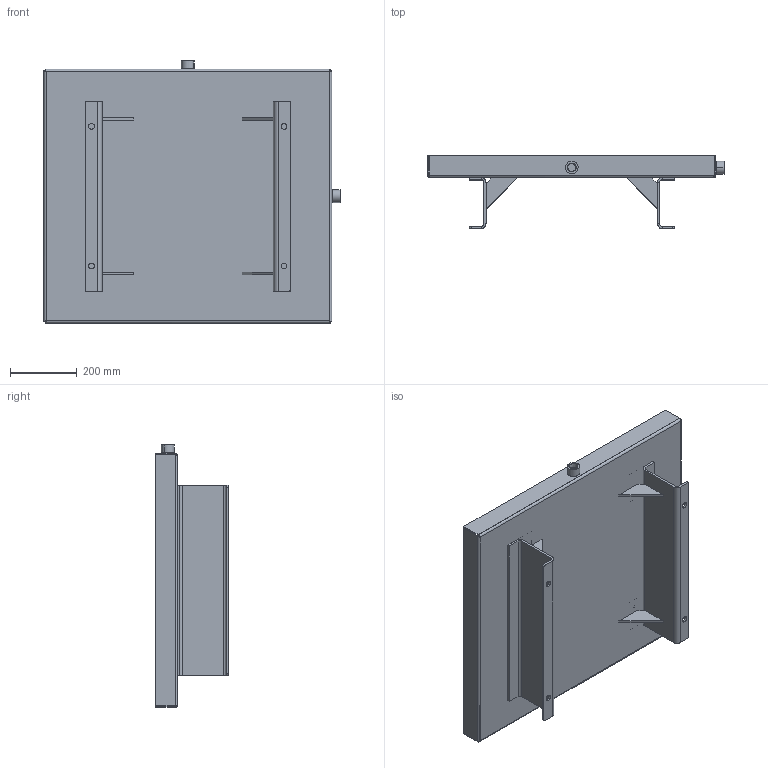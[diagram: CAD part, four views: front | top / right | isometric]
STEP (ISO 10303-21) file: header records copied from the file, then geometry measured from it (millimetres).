
FILE_DESCRIPTION (( 'STEP AP203' ), '1' );
FILE_NAME ('RJDPR010.STEP', '2015-01-07T19:38:09', ( '' ), ( '' ), 'SwSTEP 2.0', 'SolidWorks 2014', '' );
FILE_SCHEMA (( 'CONFIG_CONTROL_DESIGN' ));
Length unit declared in the file: inch
Products named in the file (1): RJDPR010
Bounding box: 889 x 219.07 x 787.4 mm (x, y, z)
Volume: 4932400.6 mm3; surface area: 2428702.2 mm2
Topology: 13 solids, 13 shells, 198 faces, 436 edges, 268 vertices
Faces by surface type: plane 114, cylinder 68, bspline 8, cone 8
Entity records: 6031 total; most frequent: CARTESIAN_POINT 1519, DIRECTION 934, ORIENTED_EDGE 872, EDGE_CURVE 436, AXIS2_PLACEMENT_3D 323, VECTOR 288, LINE 288, VERTEX_POINT 268
